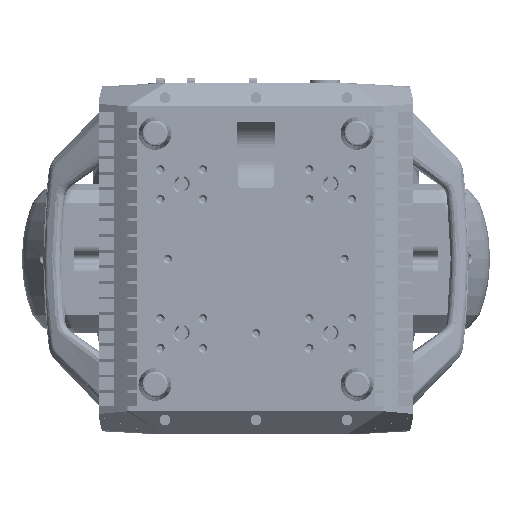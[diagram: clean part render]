
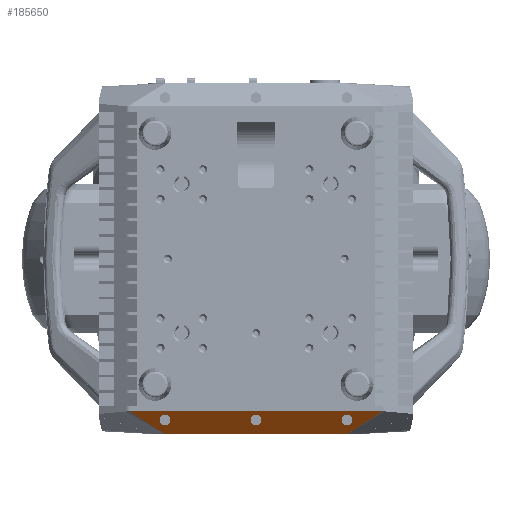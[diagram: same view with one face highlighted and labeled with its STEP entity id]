
A CAD part, front view. The second image highlights one B-rep face of the part: STEP entity #185650.
In plain terms, the highlighted planar face has unit normal (0, -0.751, -0.66).
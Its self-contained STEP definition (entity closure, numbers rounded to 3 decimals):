
#7860 = LINE ( 'NONE', #538791, #584629 ) ;
#8677 = CARTESIAN_POINT ( 'NONE',  ( -75.568, -21.259, -146.492 ) ) ;
#14796 = CARTESIAN_POINT ( 'NONE',  ( -10., -12.467, -156.492 ) ) ;
#23208 = DIRECTION ( 'NONE',  ( 0., 0.66, -0.751 ) ) ;
#40386 = CARTESIAN_POINT ( 'NONE',  ( 85.568, -21.259, -146.492 ) ) ;
#62253 = DIRECTION ( 'NONE',  ( 1., 0., 0. ) ) ;
#64000 = EDGE_CURVE ( 'NONE', #259714, #683859, #218385, .T. ) ;
#66897 = CARTESIAN_POINT ( 'NONE',  ( -85.568, -12.467, -156.492 ) ) ;
#74119 = VERTEX_POINT ( 'NONE', #670174 ) ;
#87290 = EDGE_CURVE ( 'NONE', #139988, #484983, #366822, .T. ) ;
#105590 = CARTESIAN_POINT ( 'NONE',  ( 10., -21.259, -146.492 ) ) ;
#105857 = ORIENTED_EDGE ( 'NONE', *, *, #344747, .F. ) ;
#109255 = VECTOR ( 'NONE', #632868, 1000. ) ;
#115090 = CARTESIAN_POINT ( 'NONE',  ( 85.712, -5.078, -164.896 ) ) ;
#115825 =( BOUNDED_CURVE ( )  B_SPLINE_CURVE ( 3, ( #363489, #247252, #766950, #588559 ),
 .UNSPECIFIED., .F., .T. ) 
 B_SPLINE_CURVE_WITH_KNOTS ( ( 4, 4 ),
 ( 3.142, 6.283 ),
 .UNSPECIFIED. ) 
 CURVE ( )  GEOMETRIC_REPRESENTATION_ITEM ( )  RATIONAL_B_SPLINE_CURVE ( ( 1., 0.333, 0.333, 1. ) ) 
 REPRESENTATION_ITEM ( '' )  );
#119817 = CARTESIAN_POINT ( 'NONE',  ( -85.568, -12.467, -156.492 ) ) ;
#124971 = CARTESIAN_POINT ( 'NONE',  ( 85.568, -12.467, -156.492 ) ) ;
#128766 = CARTESIAN_POINT ( 'NONE',  ( 95.568, -21.259, -146.492 ) ) ;
#136392 = CARTESIAN_POINT ( 'NONE',  ( 95.568, -12.467, -156.492 ) ) ;
#139988 = VERTEX_POINT ( 'NONE', #189012 ) ;
#148173 = LINE ( 'NONE', #377004, #437754 ) ;
#150128 = EDGE_LOOP ( 'NONE', ( #401220, #164455, #105857, #631825 ) ) ;
#161657 = FACE_BOUND ( 'NONE', #341253, .T. ) ;
#164455 = ORIENTED_EDGE ( 'NONE', *, *, #64000, .T. ) ;
#166357 = VERTEX_POINT ( 'NONE', #678068 ) ;
#185410 = CARTESIAN_POINT ( 'NONE',  ( 0., -21.259, -146.492 ) ) ;
#185650 = ADVANCED_FACE ( 'NONE', ( #161657, #398246, #514499, #394408 ), #554160, .T. ) ;
#188287 = EDGE_LOOP ( 'NONE', ( #725771, #361799 ) ) ;
#189012 = CARTESIAN_POINT ( 'NONE',  ( 85.568, -12.467, -156.492 ) ) ;
#196714 = AXIS2_PLACEMENT_3D ( 'NONE', #383558, #557963, #23208 ) ;
#197037 = EDGE_CURVE ( 'NONE', #310254, #259714, #737637, .T. ) ;
#211267 = EDGE_CURVE ( 'NONE', #605972, #457236, #494841, .T. ) ;
#218385 = LINE ( 'NONE', #563386, #109255 ) ;
#218699 = CARTESIAN_POINT ( 'NONE',  ( 75.568, -12.467, -156.492 ) ) ;
#226375 = CARTESIAN_POINT ( 'NONE',  ( 85.568, -12.467, -156.492 ) ) ;
#247252 = CARTESIAN_POINT ( 'NONE',  ( -95.568, -12.467, -156.492 ) ) ;
#259714 = VERTEX_POINT ( 'NONE', #115090 ) ;
#264583 = DIRECTION ( 'NONE',  ( -0.759, -0.43, 0.489 ) ) ;
#272483 = CARTESIAN_POINT ( 'NONE',  ( 10., -12.467, -156.492 ) ) ;
#291669 = ORIENTED_EDGE ( 'NONE', *, *, #376649, .T. ) ;
#304765 = ORIENTED_EDGE ( 'NONE', *, *, #87290, .T. ) ;
#310254 = VERTEX_POINT ( 'NONE', #556312 ) ;
#316372 = EDGE_LOOP ( 'NONE', ( #291669, #384388 ) ) ;
#319512 = VERTEX_POINT ( 'NONE', #408044 ) ;
#341253 = EDGE_LOOP ( 'NONE', ( #304765, #527092 ) ) ;
#344747 = EDGE_CURVE ( 'NONE', #166357, #683859, #7860, .T. ) ;
#361799 = ORIENTED_EDGE ( 'NONE', *, *, #490906, .T. ) ;
#363489 = CARTESIAN_POINT ( 'NONE',  ( -85.568, -12.467, -156.492 ) ) ;
#366822 =( BOUNDED_CURVE ( )  B_SPLINE_CURVE ( 3, ( #226375, #218699, #699013, #40386 ),
 .UNSPECIFIED., .F., .F. ) 
 B_SPLINE_CURVE_WITH_KNOTS ( ( 4, 4 ),
 ( 3.142, 6.283 ),
 .UNSPECIFIED. ) 
 CURVE ( )  GEOMETRIC_REPRESENTATION_ITEM ( )  RATIONAL_B_SPLINE_CURVE ( ( 1., 0.333, 0.333, 1. ) ) 
 REPRESENTATION_ITEM ( '' )  );
#376234 =( BOUNDED_CURVE ( )  B_SPLINE_CURVE ( 3, ( #434779, #128766, #136392, #124971 ),
 .UNSPECIFIED., .F., .F. ) 
 B_SPLINE_CURVE_WITH_KNOTS ( ( 4, 4 ),
 ( 0., 3.142 ),
 .UNSPECIFIED. ) 
 CURVE ( )  GEOMETRIC_REPRESENTATION_ITEM ( )  RATIONAL_B_SPLINE_CURVE ( ( 1., 0.333, 0.333, 1. ) ) 
 REPRESENTATION_ITEM ( '' )  );
#376649 = EDGE_CURVE ( 'NONE', #457236, #605972, #115825, .T. ) ;
#377004 = CARTESIAN_POINT ( 'NONE',  ( -102.729, -14.73, -153.918 ) ) ;
#383558 = CARTESIAN_POINT ( 'NONE',  ( -140.05, -24., -143.375 ) ) ;
#384388 = ORIENTED_EDGE ( 'NONE', *, *, #211267, .T. ) ;
#394408 = FACE_OUTER_BOUND ( 'NONE', #150128, .T. ) ;
#396017 = CARTESIAN_POINT ( 'NONE',  ( 119.072, -24., -143.375 ) ) ;
#398246 = FACE_BOUND ( 'NONE', #316372, .T. ) ;
#401220 = ORIENTED_EDGE ( 'NONE', *, *, #197037, .T. ) ;
#406812 =( BOUNDED_CURVE ( )  B_SPLINE_CURVE ( 3, ( #425688, #14796, #483754, #185410 ),
 .UNSPECIFIED., .F., .F. ) 
 B_SPLINE_CURVE_WITH_KNOTS ( ( 4, 4 ),
 ( 3.142, 6.283 ),
 .UNSPECIFIED. ) 
 CURVE ( )  GEOMETRIC_REPRESENTATION_ITEM ( )  RATIONAL_B_SPLINE_CURVE ( ( 1., 0.333, 0.333, 1. ) ) 
 REPRESENTATION_ITEM ( '' )  );
#408044 = CARTESIAN_POINT ( 'NONE',  ( 0., -12.467, -156.492 ) ) ;
#425688 = CARTESIAN_POINT ( 'NONE',  ( 0., -12.467, -156.492 ) ) ;
#434779 = CARTESIAN_POINT ( 'NONE',  ( 85.568, -21.259, -146.492 ) ) ;
#437754 = VECTOR ( 'NONE', #264583, 1000. ) ;
#457236 = VERTEX_POINT ( 'NONE', #119817 ) ;
#469899 = DIRECTION ( 'NONE',  ( 1., 0., 0. ) ) ;
#483754 = CARTESIAN_POINT ( 'NONE',  ( -10., -21.259, -146.492 ) ) ;
#484983 = VERTEX_POINT ( 'NONE', #547310 ) ;
#490906 = EDGE_CURVE ( 'NONE', #74119, #319512, #581246, .T. ) ;
#493687 = CARTESIAN_POINT ( 'NONE',  ( -85.568, -21.259, -146.492 ) ) ;
#494841 =( BOUNDED_CURVE ( )  B_SPLINE_CURVE ( 3, ( #648201, #8677, #710278, #66897 ),
 .UNSPECIFIED., .F., .F. ) 
 B_SPLINE_CURVE_WITH_KNOTS ( ( 4, 4 ),
 ( 0., 3.142 ),
 .UNSPECIFIED. ) 
 CURVE ( )  GEOMETRIC_REPRESENTATION_ITEM ( )  RATIONAL_B_SPLINE_CURVE ( ( 1., 0.333, 0.333, 1. ) ) 
 REPRESENTATION_ITEM ( '' )  );
#514499 = FACE_BOUND ( 'NONE', #188287, .T. ) ;
#514700 = VECTOR ( 'NONE', #469899, 1000. ) ;
#527092 = ORIENTED_EDGE ( 'NONE', *, *, #762701, .T. ) ;
#528009 = CARTESIAN_POINT ( 'NONE',  ( -140.05, -5.078, -164.896 ) ) ;
#538791 = CARTESIAN_POINT ( 'NONE',  ( -121., -24., -143.375 ) ) ;
#547310 = CARTESIAN_POINT ( 'NONE',  ( 85.568, -21.259, -146.492 ) ) ;
#554160 = PLANE ( 'NONE',  #196714 ) ;
#556312 = CARTESIAN_POINT ( 'NONE',  ( -85.712, -5.078, -164.896 ) ) ;
#557963 = DIRECTION ( 'NONE',  ( 0., -0.751, -0.66 ) ) ;
#563386 = CARTESIAN_POINT ( 'NONE',  ( 85.712, -5.078, -164.896 ) ) ;
#581246 =( BOUNDED_CURVE ( )  B_SPLINE_CURVE ( 3, ( #632652, #105590, #272483, #698508 ),
 .UNSPECIFIED., .F., .F. ) 
 B_SPLINE_CURVE_WITH_KNOTS ( ( 4, 4 ),
 ( 0., 3.142 ),
 .UNSPECIFIED. ) 
 CURVE ( )  GEOMETRIC_REPRESENTATION_ITEM ( )  RATIONAL_B_SPLINE_CURVE ( ( 1., 0.333, 0.333, 1. ) ) 
 REPRESENTATION_ITEM ( '' )  );
#584629 = VECTOR ( 'NONE', #62253, 1000. ) ;
#588559 = CARTESIAN_POINT ( 'NONE',  ( -85.568, -21.259, -146.492 ) ) ;
#605972 = VERTEX_POINT ( 'NONE', #493687 ) ;
#631825 = ORIENTED_EDGE ( 'NONE', *, *, #691949, .F. ) ;
#632652 = CARTESIAN_POINT ( 'NONE',  ( 0., -21.259, -146.492 ) ) ;
#632868 = DIRECTION ( 'NONE',  ( 0.759, -0.43, 0.489 ) ) ;
#648201 = CARTESIAN_POINT ( 'NONE',  ( -85.568, -21.259, -146.492 ) ) ;
#657474 = EDGE_CURVE ( 'NONE', #319512, #74119, #406812, .T. ) ;
#670174 = CARTESIAN_POINT ( 'NONE',  ( 0., -21.259, -146.492 ) ) ;
#678068 = CARTESIAN_POINT ( 'NONE',  ( -119.072, -24., -143.375 ) ) ;
#683859 = VERTEX_POINT ( 'NONE', #396017 ) ;
#691949 = EDGE_CURVE ( 'NONE', #310254, #166357, #148173, .T. ) ;
#698508 = CARTESIAN_POINT ( 'NONE',  ( 0., -12.467, -156.492 ) ) ;
#699013 = CARTESIAN_POINT ( 'NONE',  ( 75.568, -21.259, -146.492 ) ) ;
#710278 = CARTESIAN_POINT ( 'NONE',  ( -75.568, -12.467, -156.492 ) ) ;
#725771 = ORIENTED_EDGE ( 'NONE', *, *, #657474, .T. ) ;
#737637 = LINE ( 'NONE', #528009, #514700 ) ;
#762701 = EDGE_CURVE ( 'NONE', #484983, #139988, #376234, .T. ) ;
#766950 = CARTESIAN_POINT ( 'NONE',  ( -95.568, -21.259, -146.492 ) ) ;
